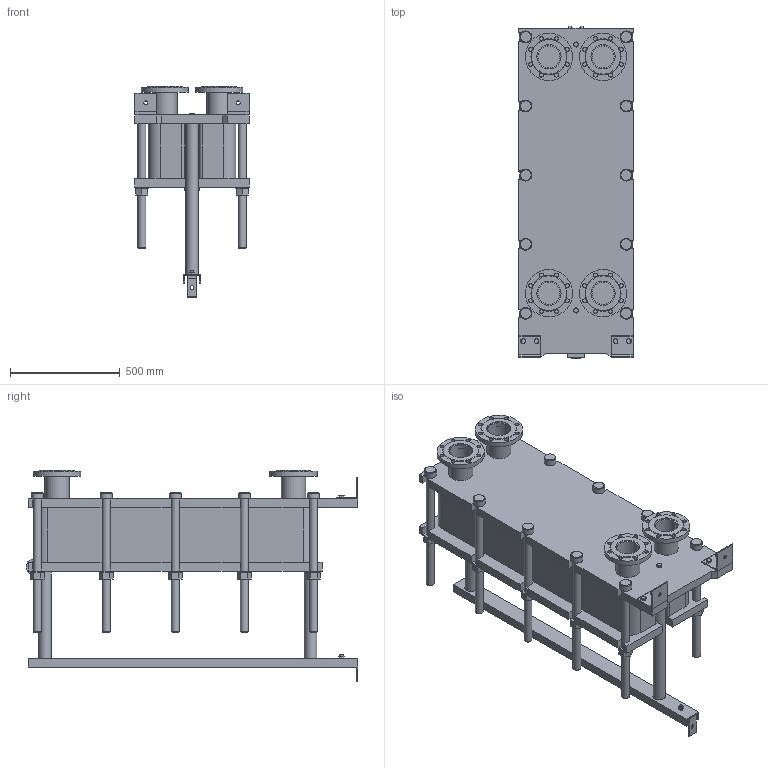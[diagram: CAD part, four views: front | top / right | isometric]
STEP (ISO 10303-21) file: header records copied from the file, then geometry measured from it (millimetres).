
FILE_DESCRIPTION(/* description */ (''),/* implementation_level */ '2;1');
FILE_NAME(/* name */ 'C:\Users\zhuro\Desktop\ENCO\TO\ЭН-04\ЭН-0,5-04-72-1.stp',/* time_stamp */ '2022-06-06T10:50:53+03:00',/* author */ ('zhuro'),/* organization */ (''),/* preprocessor_version */ 'ST-DEVELOPER v18.1',/* originating_system */ 'Autodesk Inventor 2022',/* authorisation */ '');
FILE_SCHEMA (('AUTOMOTIVE_DESIGN { 1 0 10303 214 3 1 1 }'));
Length unit declared in the file: millimetre
Products named in the file (1): ЭН-0,5-04-72-1
Bounding box: 520 x 1510 x 961 mm (x, y, z)
Volume: 193837971.5 mm3; surface area: 7739539.3 mm2
Topology: 45 solids, 45 shells, 668 faces, 1611 edges, 1048 vertices
Faces by surface type: plane 457, cylinder 166, cone 39, torus 6
Full cylindrical faces by diameter (mm): 8 x4, 10 x2, 16 x8, 18 x35, 36 x25, 40 x2, 42 x1, 45 x4, 54 x10, 57 x2, 60 x10, 68 x2, 100 x4, 110 x8, 215 x4
Entity records: 23607 total; most frequent: CARTESIAN_POINT 7348, DIRECTION 3371, ORIENTED_EDGE 3142, EDGE_CURVE 1571, AXIS2_PLACEMENT_3D 1199, VERTEX_POINT 1044, LINE 973, VECTOR 973
